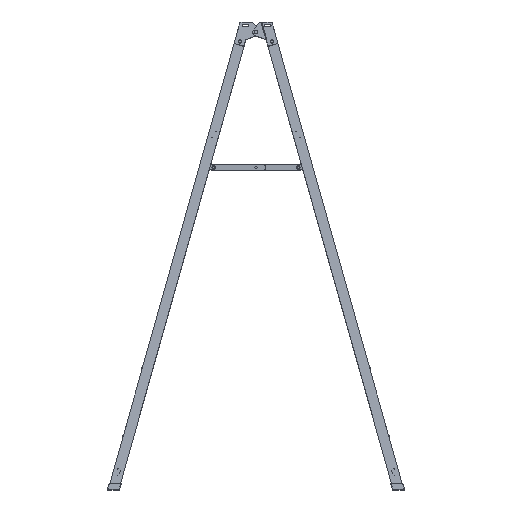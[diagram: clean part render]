
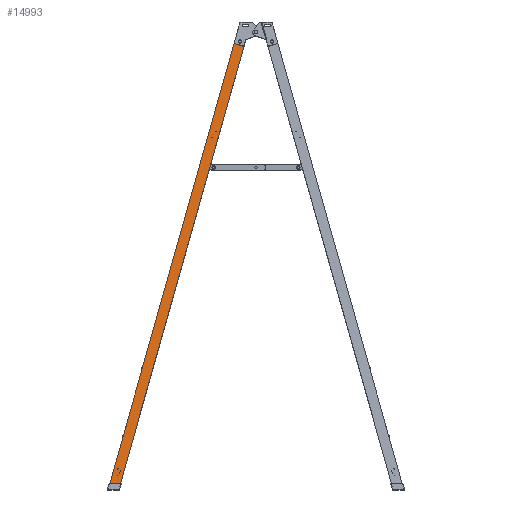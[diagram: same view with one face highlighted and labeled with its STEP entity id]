
A CAD part, top view. The second image highlights one B-rep face of the part: STEP entity #14993.
In plain terms, the highlighted planar face has unit normal (0, 0.103, 0.995).
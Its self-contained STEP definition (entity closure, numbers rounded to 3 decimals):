
#562=CIRCLE($,#15904,5.);
#563=CIRCLE($,#15905,5.);
#1255=FACE_OUTER_BOUND($,#2093,.T.);
#2093=EDGE_LOOP($,(#10235,#10236,#10237,#10238,#10239,#10240));
#3309=LINE($,#21946,#4885);
#3310=LINE($,#21948,#4886);
#3311=LINE($,#21950,#4887);
#3312=LINE($,#21953,#4888);
#4885=VECTOR($,#17498,2012.443);
#4886=VECTOR($,#17499,46.792);
#4887=VECTOR($,#17500,1999.786);
#4888=VECTOR($,#17503,35.048);
#6437=VERTEX_POINT($,#21942);
#6438=VERTEX_POINT($,#21943);
#6439=VERTEX_POINT($,#21945);
#6440=VERTEX_POINT($,#21947);
#6441=VERTEX_POINT($,#21949);
#6442=VERTEX_POINT($,#21951);
#7919=EDGE_CURVE($,#6437,#6438,#562,.T.);
#7920=EDGE_CURVE($,#6439,#6438,#3309,.T.);
#7921=EDGE_CURVE($,#6439,#6440,#3310,.T.);
#7922=EDGE_CURVE($,#6440,#6441,#3311,.T.);
#7923=EDGE_CURVE($,#6441,#6442,#563,.T.);
#7924=EDGE_CURVE($,#6442,#6437,#3312,.T.);
#10235=ORIENTED_EDGE($,*,*,#7919,.T.);
#10236=ORIENTED_EDGE($,*,*,#7920,.F.);
#10237=ORIENTED_EDGE($,*,*,#7921,.T.);
#10238=ORIENTED_EDGE($,*,*,#7922,.T.);
#10239=ORIENTED_EDGE($,*,*,#7923,.T.);
#10240=ORIENTED_EDGE($,*,*,#7924,.T.);
#14423=PLANE($,#15903);
#14993=ADVANCED_FACE($,(#1255),#14423,.T.);
#15903=AXIS2_PLACEMENT_3D($,#21941,#17494,#17495);
#15904=AXIS2_PLACEMENT_3D($,#21944,#17496,#17497);
#15905=AXIS2_PLACEMENT_3D($,#21952,#17501,#17502);
#17494=DIRECTION('center_axis',(0.,0.103,0.995));
#17495=DIRECTION('ref_axis',(1.,0.,0.));
#17496=DIRECTION('center_axis',(0.,-0.103,-0.995));
#17497=DIRECTION('ref_axis',(-0.963,0.269,-0.028));
#17498=DIRECTION($,(0.27,0.958,-0.099));
#17499=DIRECTION($,(1.,0.,0.));
#17500=DIRECTION($,(0.27,0.958,-0.099));
#17501=DIRECTION('center_axis',(0.,-0.103,-0.995));
#17502=DIRECTION('ref_axis',(-0.27,-0.958,0.099));
#17503=DIRECTION($,(-0.963,0.269,-0.028));
#21941=CARTESIAN_POINT('Origin',(-647.,0.,368.));
#21942=CARTESIAN_POINT('',(-91.088,1949.777,166.683));
#21943=CARTESIAN_POINT('',(-94.549,1955.91,166.049));
#21944=CARTESIAN_POINT('Origin',(-89.735,1954.565,166.188));
#21945=CARTESIAN_POINT('',(-638.885,28.729,365.034));
#21946=CARTESIAN_POINT($,(-647.,0.,368.));
#21947=CARTESIAN_POINT('',(-592.093,28.729,365.034));
#21948=CARTESIAN_POINT($,(-631.245,28.729,365.034));
#21949=CARTESIAN_POINT('',(-51.18,1943.79,167.301));
#21950=CARTESIAN_POINT($,(-600.208,0.,368.));
#21951=CARTESIAN_POINT('',(-57.346,1940.347,167.656));
#21952=CARTESIAN_POINT('Origin',(-55.993,1945.135,167.162));
#21953=CARTESIAN_POINT($,(-93.494,1950.45,166.613));
